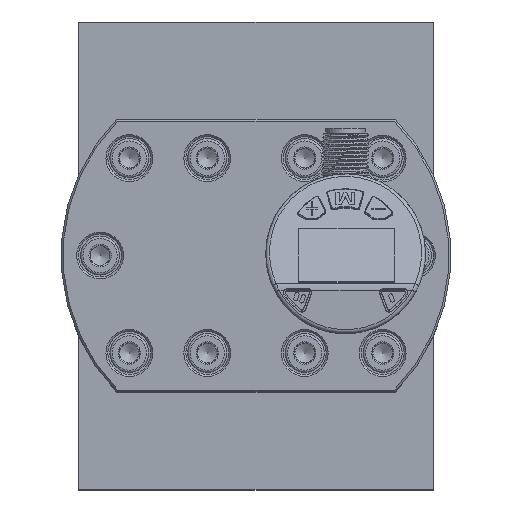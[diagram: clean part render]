
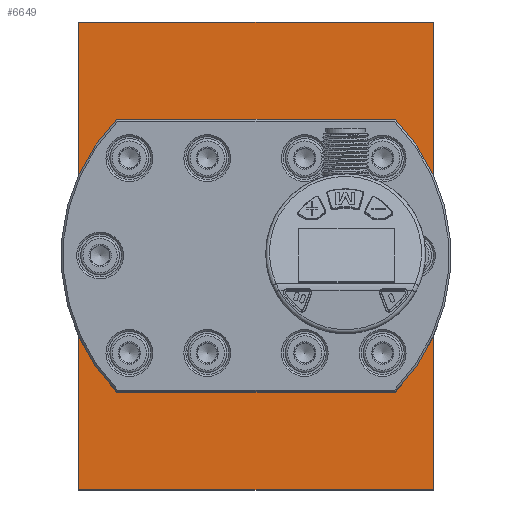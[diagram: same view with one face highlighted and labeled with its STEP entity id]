
A CAD part, top view. The second image highlights one B-rep face of the part: STEP entity #6649.
In plain terms, the highlighted planar face has unit normal (0, 0, 1).
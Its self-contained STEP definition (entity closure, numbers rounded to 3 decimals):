
#2109=LINE('',#52131,#3464);
#2113=LINE('',#52154,#3468);
#2117=LINE('',#52201,#3472);
#2119=LINE('',#52204,#3474);
#3464=VECTOR('',#28873,1.);
#3468=VECTOR('',#28883,1.);
#3472=VECTOR('',#28907,1.);
#3474=VECTOR('',#28911,1.);
#5393=PLANE('',#23216);
#6649=ADVANCED_FACE('',(#8124,#8125,#8126,#8127,#8128,#8129,#8130),#5393,
 .F.);
#8124=FACE_BOUND('',#9783,.T.);
#8125=FACE_BOUND('',#9784,.T.);
#8126=FACE_BOUND('',#9785,.T.);
#8127=FACE_BOUND('',#9786,.T.);
#8128=FACE_BOUND('',#9787,.T.);
#8129=FACE_BOUND('',#9788,.T.);
#8130=FACE_BOUND('',#9789,.T.);
#9783=EDGE_LOOP('',(#15225));
#9784=EDGE_LOOP('',(#15226));
#9785=EDGE_LOOP('',(#15227));
#9786=EDGE_LOOP('',(#15228));
#9787=EDGE_LOOP('',(#15229));
#9788=EDGE_LOOP('',(#15230));
#9789=EDGE_LOOP('',(#15231,#15232,#15233,#15234));
#15225=ORIENTED_EDGE('',*,*,#19948,.T.);
#15226=ORIENTED_EDGE('',*,*,#19949,.T.);
#15227=ORIENTED_EDGE('',*,*,#19950,.T.);
#15228=ORIENTED_EDGE('',*,*,#19951,.T.);
#15229=ORIENTED_EDGE('',*,*,#19952,.T.);
#15230=ORIENTED_EDGE('',*,*,#19953,.T.);
#15231=ORIENTED_EDGE('',*,*,#19944,.F.);
#15232=ORIENTED_EDGE('',*,*,#19921,.F.);
#15233=ORIENTED_EDGE('',*,*,#19946,.F.);
#15234=ORIENTED_EDGE('',*,*,#19929,.F.);
#17176=VERTEX_POINT('',#52132);
#17177=VERTEX_POINT('',#52133);
#17184=VERTEX_POINT('',#52155);
#17185=VERTEX_POINT('',#52156);
#17199=VERTEX_POINT('',#52209);
#17200=VERTEX_POINT('',#52211);
#17201=VERTEX_POINT('',#52213);
#17202=VERTEX_POINT('',#52215);
#17203=VERTEX_POINT('',#52217);
#17204=VERTEX_POINT('',#52219);
#19921=EDGE_CURVE('',#17176,#17177,#2109,.T.);
#19929=EDGE_CURVE('',#17184,#17185,#2113,.T.);
#19944=EDGE_CURVE('',#17177,#17184,#2117,.T.);
#19946=EDGE_CURVE('',#17185,#17176,#2119,.T.);
#19948=EDGE_CURVE('',#17199,#17199,#20902,.T.);
#19949=EDGE_CURVE('',#17200,#17200,#20903,.T.);
#19950=EDGE_CURVE('',#17201,#17201,#20904,.T.);
#19951=EDGE_CURVE('',#17202,#17202,#20905,.T.);
#19952=EDGE_CURVE('',#17203,#17203,#20906,.T.);
#19953=EDGE_CURVE('',#17204,#17204,#20907,.T.);
#20902=CIRCLE('',#23210,3.);
#20903=CIRCLE('',#23211,3.);
#20904=CIRCLE('',#23212,3.);
#20905=CIRCLE('',#23213,3.);
#20906=CIRCLE('',#23214,5.);
#20907=CIRCLE('',#23215,5.);
#23210=AXIS2_PLACEMENT_3D('',#52208,#28917,#28918);
#23211=AXIS2_PLACEMENT_3D('',#52210,#28919,#28920);
#23212=AXIS2_PLACEMENT_3D('',#52212,#28921,#28922);
#23213=AXIS2_PLACEMENT_3D('',#52214,#28923,#28924);
#23214=AXIS2_PLACEMENT_3D('',#52216,#28925,#28926);
#23215=AXIS2_PLACEMENT_3D('',#52218,#28927,#28928);
#23216=AXIS2_PLACEMENT_3D('',#52220,#28929,#28930);
#28873=DIRECTION('',(-1.,0.,0.));
#28883=DIRECTION('',(1.,0.,0.));
#28907=DIRECTION('',(0.,1.,0.));
#28911=DIRECTION('',(0.,-1.,0.));
#28917=DIRECTION('',(0.,0.,-1.));
#28918=DIRECTION('',(-1.,0.,0.));
#28919=DIRECTION('',(0.,0.,-1.));
#28920=DIRECTION('',(-1.,0.,0.));
#28921=DIRECTION('',(0.,0.,-1.));
#28922=DIRECTION('',(-1.,0.,0.));
#28923=DIRECTION('',(0.,0.,-1.));
#28924=DIRECTION('',(-1.,0.,0.));
#28925=DIRECTION('',(0.,0.,-1.));
#28926=DIRECTION('',(-1.,0.,0.));
#28927=DIRECTION('',(0.,0.,-1.));
#28928=DIRECTION('',(-1.,0.,0.));
#28929=DIRECTION('',(0.,0.,-1.));
#28930=DIRECTION('',(1.,0.,0.));
#52131=CARTESIAN_POINT('',(35.707,-59.,10.));
#52132=CARTESIAN_POINT('',(45.5,-59.,10.));
#52133=CARTESIAN_POINT('',(-45.5,-59.,10.));
#52154=CARTESIAN_POINT('',(-35.707,61.,10.));
#52155=CARTESIAN_POINT('',(-45.5,61.,10.));
#52156=CARTESIAN_POINT('',(45.5,61.,10.));
#52201=CARTESIAN_POINT('',(-45.5,-34.,10.));
#52204=CARTESIAN_POINT('',(45.5,36.,10.));
#52208=CARTESIAN_POINT('',(-32.5,26.,10.));
#52209=CARTESIAN_POINT('',(-35.5,26.,10.));
#52210=CARTESIAN_POINT('',(32.5,26.,10.));
#52211=CARTESIAN_POINT('',(29.5,26.,10.));
#52212=CARTESIAN_POINT('',(32.5,-24.,10.));
#52213=CARTESIAN_POINT('',(29.5,-24.,10.));
#52214=CARTESIAN_POINT('',(-32.5,-24.,10.));
#52215=CARTESIAN_POINT('',(-35.5,-24.,10.));
#52216=CARTESIAN_POINT('',(0.,-8.5,10.));
#52217=CARTESIAN_POINT('',(-5.,-8.5,10.));
#52218=CARTESIAN_POINT('',(0.,10.5,10.));
#52219=CARTESIAN_POINT('',(-5.,10.5,10.));
#52220=CARTESIAN_POINT('',(0.,0.,10.));
